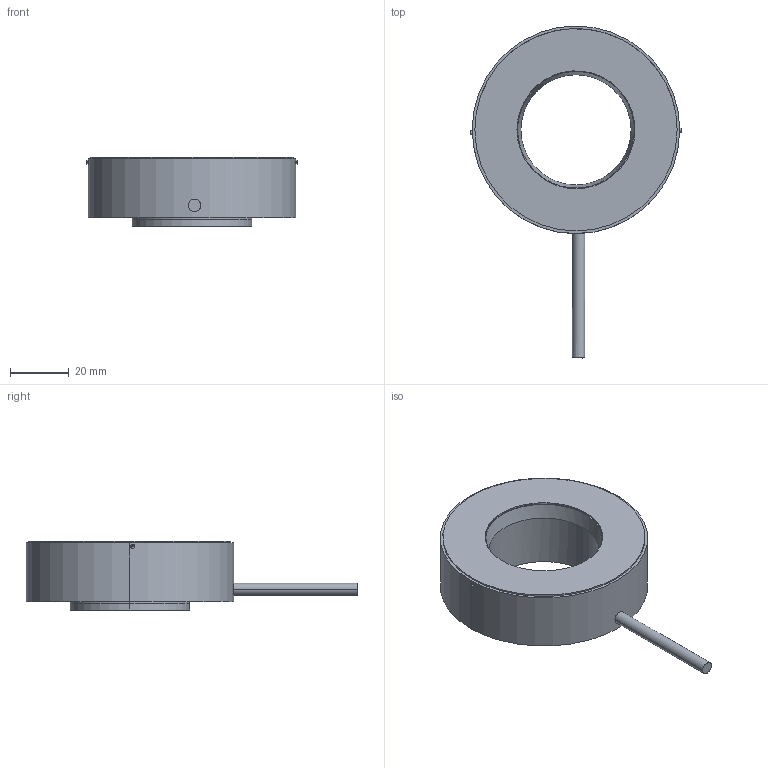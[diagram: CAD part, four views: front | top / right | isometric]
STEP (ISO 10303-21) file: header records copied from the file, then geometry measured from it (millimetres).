
FILE_DESCRIPTION(('STEP AP214'),'1');
FILE_NAME('Z:/Spaceclaim-Entwürfe/RONDO-M (S15)/RONDO-M_Kundenversion_290113.stp','2013-01-29T08:17:16',(' '),(' '),'Spatial InterOp 3D',' ',' ');
FILE_SCHEMA(('automotive_design'));
Length unit declared in the file: metre
Products named in the file (9): 1; 2; 3; 4; 5; 6; 7; 8; 9
Bounding box: 71.35 x 112.55 x 23.54 mm (x, y, z)
Volume: 57901.5 mm3; surface area: 14284.7 mm2
Topology: 4 solids, 19 shells, 68 faces, 173 edges, 135 vertices
Faces by surface type: cylinder 34, plane 30, cone 4
Entity records: 2891 total; most frequent: DIRECTION 432, CARTESIAN_POINT 385, ORIENTED_EDGE 286, AXIS2_PLACEMENT_3D 182, EDGE_CURVE 173, VERTEX_POINT 135, CIRCLE 105, EDGE_LOOP 82
